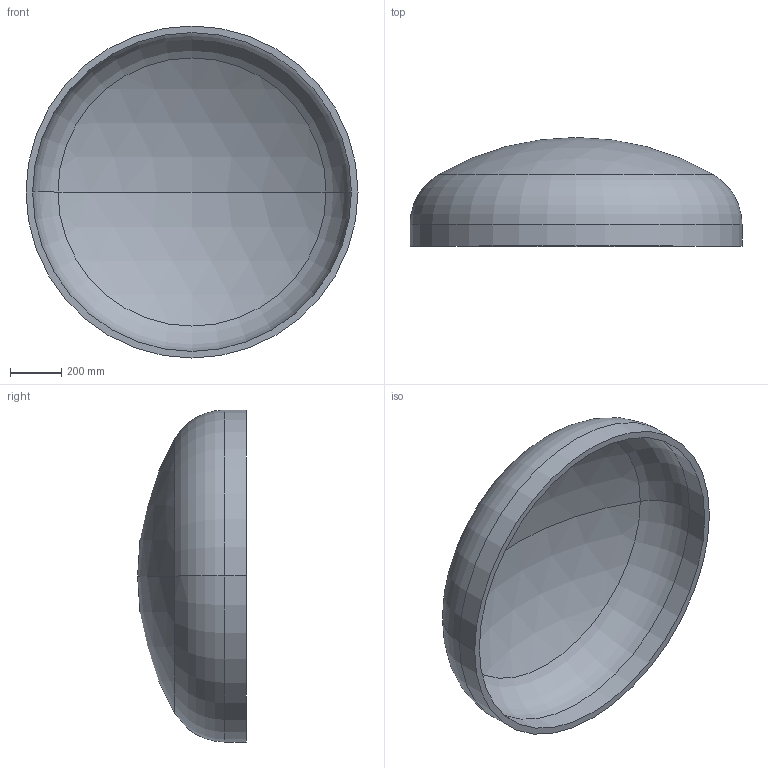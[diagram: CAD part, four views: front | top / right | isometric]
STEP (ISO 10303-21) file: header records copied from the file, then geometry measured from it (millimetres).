
FILE_DESCRIPTION (( 'STEP AP203' ), '1' );
FILE_NAME ('DIN 28013 Korbbogenform_-_Boden DIN 28013 - 1300 x 85 - I - s=26.step', '2016-07-01T09:47:06', ( '' ), ( '' ), 'SwSTEP 2.0', 'SolidWorks 2013', '' );
FILE_SCHEMA (( 'CONFIG_CONTROL_DESIGN' ));
Length unit declared in the file: millimetre
Products named in the file (1): DIN 28013 Korbbogenform_-_Boden DIN 28013 - 1300 x 85 - I - s=26
Bounding box: 1300 x 425.86 x 1300 mm (x, y, z)
Volume: 55390383.2 mm3; surface area: 4366275.3 mm2
Topology: 1 solids, 1 shells, 13 faces, 24 edges, 14 vertices
Faces by surface type: torus 4, cylinder 4, sphere 4, plane 1
Entity records: 407 total; most frequent: DIRECTION 72, CARTESIAN_POINT 52, ORIENTED_EDGE 48, AXIS2_PLACEMENT_3D 34, EDGE_CURVE 24, CIRCLE 20, EDGE_LOOP 14, VERTEX_POINT 14
